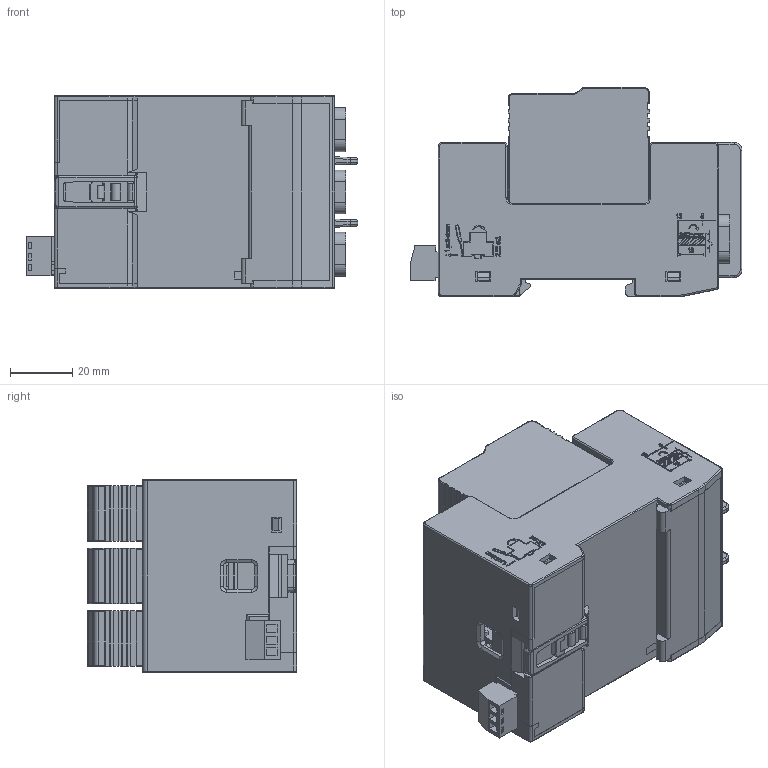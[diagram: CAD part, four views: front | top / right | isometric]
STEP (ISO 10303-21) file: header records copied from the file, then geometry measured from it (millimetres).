
FILE_DESCRIPTION(/* description */ (''),/* implementation_level */ '2;1');
FILE_NAME(/* name */ '3P-4-3D2025',/* time_stamp */ '2025-11-12T11:17:22+08:00',/* author */ (''),/* organization */ (''),/* preprocessor_version */ 'ST-DEVELOPER v9',/* originating_system */ 'EDS PLM SOLUTIONS - UNIGRAPHICS NX 2.0',/* authorisation */ '');
FILE_SCHEMA (('AUTOMOTIVE_DESIGN { 1 0 10303 214 0 1 1 1 }'));
Products named in the file (1): Admi3BBBlf77
Bounding box: 106.5 x 67.2 x 61.9 mm (x, y, z)
Volume: 182901.2 mm3; surface area: 96440.4 mm2
Topology: 9 solids, 22 shells, 2560 faces, 6951 edges, 4512 vertices
Faces by surface type: plane 1715, cylinder 558, extrusion 99, torus 93, cone 48, bspline 35, sphere 12
Full cylindrical faces by diameter (mm): 2.7 x3, 4.916 x4, 4.917 x4, 6 x8, 7.4 x4, 10.8 x4, 11.8 x4, 13 x4
Entity records: 82945 total; most frequent: CARTESIAN_POINT 18611, ORIENTED_EDGE 13682, DIRECTION 12693, EDGE_CURVE 6841, VECTOR 5093, LINE 4994, VERTEX_POINT 4489, AXIS2_PLACEMENT_3D 3800
